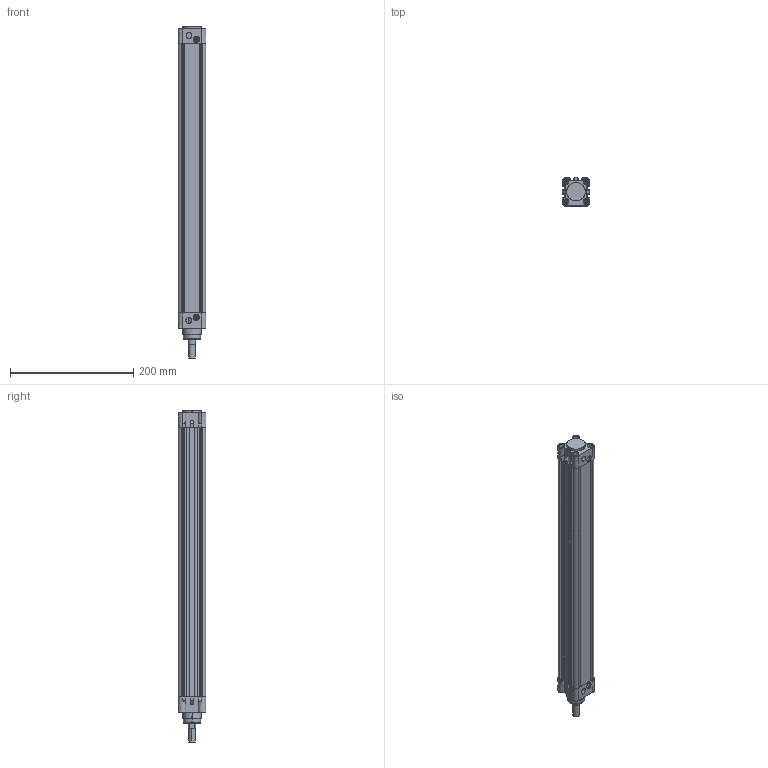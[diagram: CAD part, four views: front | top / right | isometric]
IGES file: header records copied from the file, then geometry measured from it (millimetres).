
Start section: SolidWorks IGES file using analytic representation for surfaces
Global section: file name: D:\ARICA 3D ÇÝZÝMLER\3D IGES\DNCAT-S DÖNMEZ MÝLLÝ SERÝSÝ\DNCAT-S 32\DNCAT-S-32x395CYLINDER.IGS; native system: SolidWorks 2013; preprocessor: SolidWorks 2013; author: user; date: 161219.084610; units: millimetre
Bounding box: 45.5 x 45.5 x 539.75 mm (x, y, z)
Surface area: 232481.6 mm2 (no closed solid volume)
Topology: 0 solids, 0 shells, 319 faces, 4944 edges, 4944 vertices
Faces by surface type: bspline 189, revolution 130
